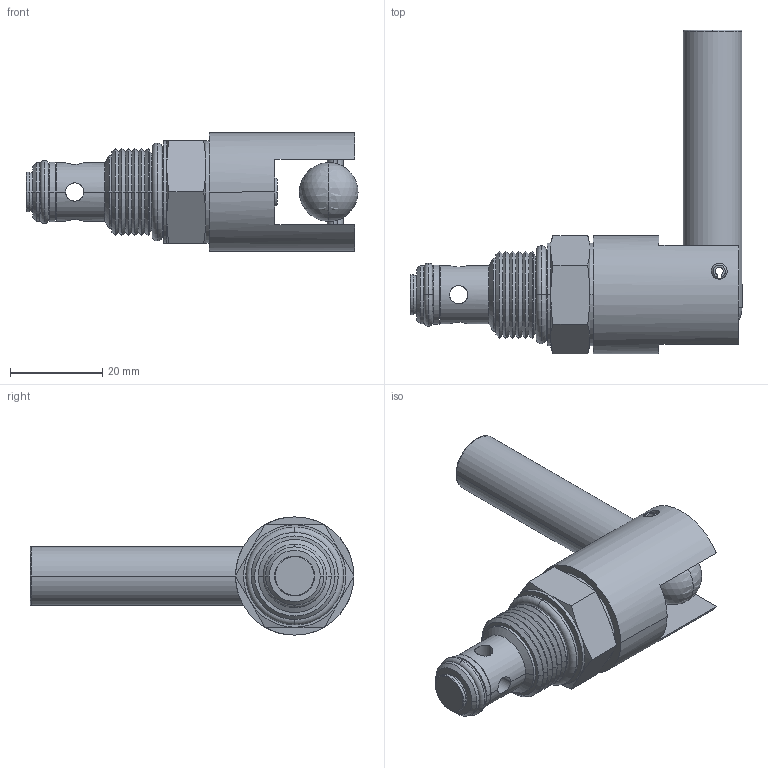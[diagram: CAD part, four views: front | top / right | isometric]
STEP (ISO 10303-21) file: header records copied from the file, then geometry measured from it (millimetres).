
FILE_DESCRIPTION((''),'2;1');
FILE_NAME('U:\Solid model CD\Solid model full\Mechanical\STEP\PBMCI0L-3D Full.stp','2008-07-29T09:51:03',('Dan'),(''),'Autodesk Inventor 9','Autodesk Inventor 9','');
FILE_SCHEMA(('AUTOMOTIVE_DESIGN { 1 0 10303 214 1 1 1 1 }'));
Length unit declared in the file: inch
Products named in the file (7): PBMCI0L-3D Full; PBMCI0L-3D Full1; PBMCI0L-3D Full2; PBMCI0L-3D Full3; PBMCI0L-3D Full4; PBMCI0L-3D Full5; PBMCI0L-3D Full6
Assembly tree (6 placements, depth 2):
  PBMCI0L-3D Full
    PBMCI0L-3D Full1
    PBMCI0L-3D Full2
    PBMCI0L-3D Full3
    PBMCI0L-3D Full4
    PBMCI0L-3D Full5
    PBMCI0L-3D Full6
Bounding box: 71.97 x 70.18 x 25.65 mm (x, y, z)
Volume: 27680.2 mm3; surface area: 10540.6 mm2
Topology: 6 solids, 6 shells, 136 faces, 312 edges, 183 vertices
Faces by surface type: cone 54, cylinder 44, plane 26, torus 10, sphere 2
Entity records: 4230 total; most frequent: CARTESIAN_POINT 988, DIRECTION 700, ORIENTED_EDGE 616, EDGE_CURVE 308, AXIS2_PLACEMENT_3D 297, VERTEX_POINT 183, EDGE_LOOP 153, CIRCLE 144
